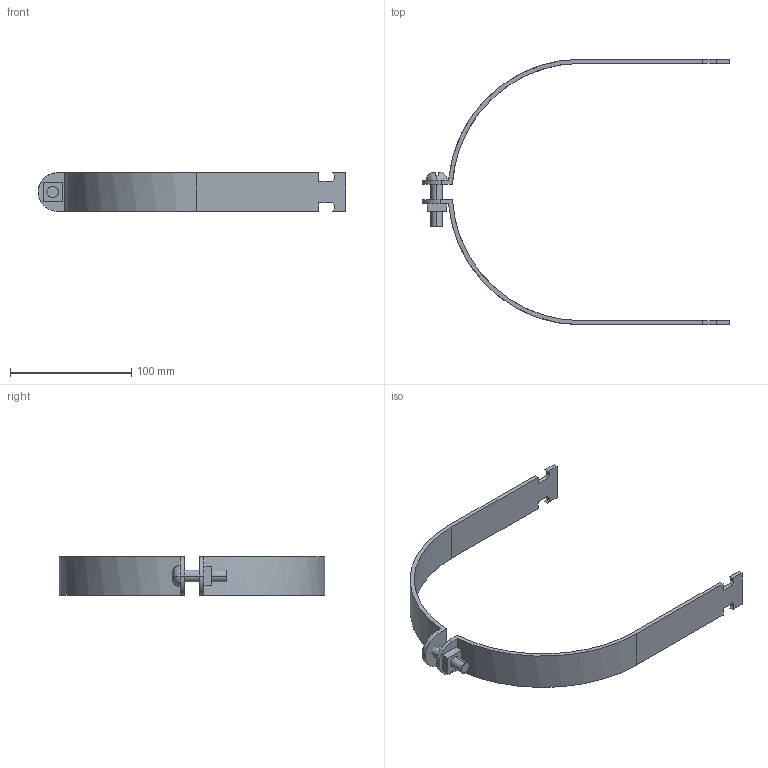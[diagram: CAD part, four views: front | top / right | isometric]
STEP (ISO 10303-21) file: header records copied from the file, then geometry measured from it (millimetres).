
FILE_DESCRIPTION(('TurboCAD Mac Pro'),'Build 980');
FILE_NAME('P2070-83.stp',' ',(''),(''),'ACIS Interop','IMSI','TurboCAD Mac Pro BY IMSI, INCORPORATED');
FILE_SCHEMA(('automotive_design'));
Length unit declared in the file: inch
Products named in the file (5): 1; 2; 3; 4; 5
Bounding box: 254 x 219.45 x 31.75 mm (x, y, z)
Volume: 69971.4 mm3; surface area: 45547.4 mm2
Topology: 4 solids, 4 shells, 71 faces, 186 edges, 124 vertices
Faces by surface type: plane 51, bspline 20
Entity records: 4418 total; most frequent: CARTESIAN_POINT 1053, ORIENTED_EDGE 372, STYLED_ITEM 277, PRESENTATION_STYLE_ASSIGNMENT 277, COLOUR_RGB 277, DIRECTION 257, CURVE_STYLE 202, DRAUGHTING_PRE_DEFINED_CURVE_FONT 202
